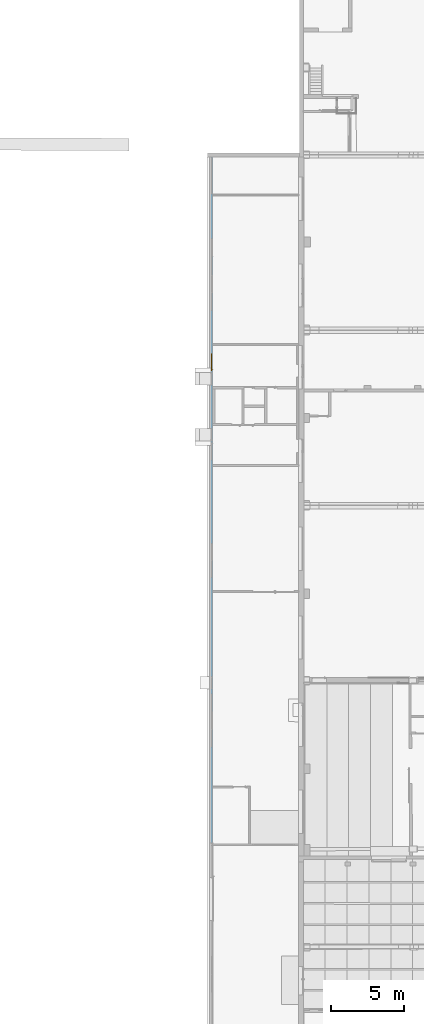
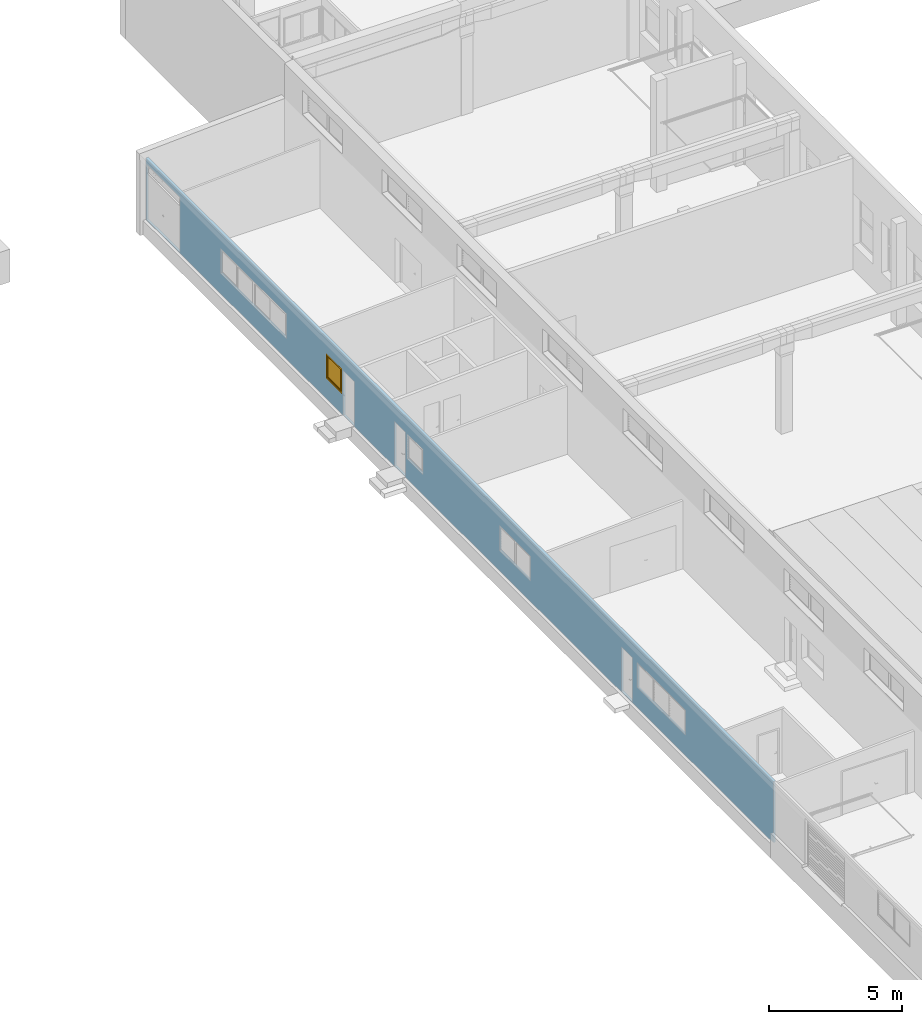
# One storey, part 102 of 301: 1 window, 9 openings, plus 1 element that does not belong to this part.
"""IFC2X3 building model written with IfcOpenShell, lengths in millimetres."""

from ifc_helpers import new_model, entity, si_unit, converted_unit, derived_unit, money_unit, direction, frame, origin_with_axes, place, context, subcontext, project, spatial, open_shell, faceted_brep, surface_model, material, type_object, element, fill, save


model = new_model("IFC2X3")

# Units and contexts
model_context = context("Model", 3, precision=0.01, world=origin_with_axes(), true_north=direction((0.0, 1.0)))
body_context = subcontext(model_context, "Body", "Model", "MODEL_VIEW")
ifc_project = project(units=[si_unit("LENGTHUNIT", "METRE", prefix="MILLI"), si_unit("AREAUNIT", "SQUARE_METRE"), si_unit("VOLUMEUNIT", "CUBIC_METRE"), converted_unit("PLANEANGLEUNIT", "DEGREE", entity("IfcPlaneAngleMeasure", 0.0174532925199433), si_unit("PLANEANGLEUNIT", "RADIAN"), dimensions=[0, 0, 0, 0, 0, 0, 0]), money_unit("EUR"), converted_unit("TIMEUNIT", "Year", entity("IfcTimeMeasure", 31557600.0), si_unit("TIMEUNIT", "SECOND"), dimensions=[0, 0, 1, 0, 0, 0, 0]), si_unit("MASSUNIT", "GRAM", prefix="KILO"), si_unit("THERMODYNAMICTEMPERATUREUNIT", "DEGREE_CELSIUS"), si_unit("LUMINOUSINTENSITYUNIT", "LUMEN"), si_unit("ENERGYUNIT", "JOULE", prefix="MEGA"), derived_unit("THERMALCONDUCTANCEUNIT", [(si_unit("POWERUNIT", "WATT"), 1), (si_unit("LENGTHUNIT", "METRE"), -1), (si_unit("THERMODYNAMICTEMPERATUREUNIT", "KELVIN"), -1)]), derived_unit("SPECIFICHEATCAPACITYUNIT", [(si_unit("ENERGYUNIT", "JOULE"), 1), (si_unit("MASSUNIT", "GRAM", prefix="KILO"), -1), (si_unit("THERMODYNAMICTEMPERATUREUNIT", "KELVIN"), -1)]), derived_unit("MASSDENSITYUNIT", [(si_unit("MASSUNIT", "GRAM", prefix="KILO"), 1), (si_unit("VOLUMEUNIT", "CUBIC_METRE"), -1)])], contexts=[model_context])

# Site, building, storey
site_placement = place(None, frame((0.0, 0.0, 8650.0), z_axis=(0.0, 0.0, 1.0), x_axis=(1.0, 0.0, 0.0)))
site = spatial("IfcSite", under=ifc_project, at=site_placement, Name="43301:001:0844", CompositionType="ELEMENT")
building_placement = place(site_placement, origin_with_axes())
building = spatial("IfcBuilding", under=site, at=building_placement, Name="Kuressaare Ametikooli tuulikute mehaanikute õppekorpus", CompositionType="ELEMENT")
storey_placement = place(building_placement, origin_with_axes())
storey = spatial("IfcBuildingStorey", under=building, at=storey_placement, Name="1.korrus", CompositionType="ELEMENT", Elevation=0.0)

# Wall, openings, window
ifc_material = material(Name="GENEERILINE - KONSTRUKTRIOON")
wall_type = type_object("IfcWallType", Name="GENEERILINE - KONSTRUKTRIOON 100", PredefinedType="NOTDEFINED")
wall_placement = place(storey_placement, frame((81892.20130850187, 110588.890590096, -350.0), z_axis=(0.0, 0.0, 1.0), x_axis=(-7.655742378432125e-06, -0.9999999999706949, 0.0)))
wall = element("IfcWall", 1, at=wall_placement, inside=storey, type_object=wall_type, material=ifc_material, Name="VS-XX", context=body_context, shape_type="Brep", body=[
    faceted_brep([(269.999999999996, 0.0, 2816.26484691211), (269.999999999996, 99.99999999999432, 2821.680593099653), (269.999999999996, 99.99999999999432, 0.0), (269.999999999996, 0.0, 0.0), (47352.6273163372, 99.9999999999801, 2809.655716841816), (47352.6273163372, 0.0, 2804.239970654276), (47352.6273163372, 99.9999999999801, 0.0), (5854.778075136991, 99.9999999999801, 924.9999999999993), (10814.77807513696, 100.0000000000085, 924.9999999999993), (10814.77807513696, 100.0000000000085, 2075.0), (5854.778075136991, 99.9999999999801, 2075.0), (13763.52836301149, 99.99999999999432, 2075.0), (13763.52836301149, 99.99999999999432, 924.9999999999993), (14963.52836301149, 100.0000000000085, 924.9999999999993), (14963.52836301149, 100.0000000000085, 2075.0), (21051.12921387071, 99.99999999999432, 2075.0), (19851.12921387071, 99.99999999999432, 2075.0), (19851.12921387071, 99.99999999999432, 924.9999999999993), (21051.12921387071, 99.99999999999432, 924.9999999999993), (29133.95455333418, 99.99999999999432, 924.9999999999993), (29133.95455333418, 99.99999999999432, 2075.0), (26783.95455333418, 99.99999999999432, 2075.0), (26783.95455333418, 99.99999999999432, 924.9999999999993), (37120.04927739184, 99.9999999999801, 924.9999999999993), (40770.04927739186, 99.9999999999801, 924.9999999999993), (40770.04927739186, 99.9999999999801, 2075.0), (37120.04927739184, 99.9999999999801, 2075.0), (297.2449189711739, 99.99999999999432, 2580.0), (297.2449189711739, 99.99999999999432, 19.99999999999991), (2817.24491897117, 99.99999999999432, 19.99999999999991), (2817.24491897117, 99.99999999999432, 2580.0), (15909.77920143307, 100.0000000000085, 2070.0), (15059.77920143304, 99.99999999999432, 2070.0), (15059.77920143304, 99.99999999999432, 19.99999999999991), (15909.77920143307, 100.0000000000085, 19.99999999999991), (19754.87837544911, 99.9999999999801, 19.99999999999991), (19754.87837544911, 99.9999999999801, 2070.0), (18904.8783754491, 99.99999999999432, 2070.0), (18904.8783754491, 99.99999999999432, 19.99999999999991), (35946.63936298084, 99.9999999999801, 19.99999999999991), (36796.63936298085, 99.9999999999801, 19.99999999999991), (36796.63936298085, 99.9999999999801, 2070.0), (35946.63936298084, 99.9999999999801, 2070.0), (47352.6273163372, 0.0, 0.0), (10814.77807513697, 0.0, 2075.0), (10814.77807513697, 0.0, 924.9999999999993), (5854.778075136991, 0.0, 924.9999999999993), (5854.778075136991, 0.0, 2075.0), (13763.5283630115, 0.0, 2075.0), (14963.5283630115, 0.0, 2075.0), (14963.5283630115, 0.0, 924.9999999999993), (13763.5283630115, 0.0, 924.9999999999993), (19851.12921387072, 0.0, 924.9999999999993), (19851.12921387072, 0.0, 2075.0), (21051.12921387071, 0.0, 2075.0), (21051.12921387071, 0.0, 924.9999999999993), (29133.95455333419, 0.0, 924.9999999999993), (26783.95455333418, 0.0, 924.9999999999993), (26783.95455333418, 0.0, 2075.0), (29133.95455333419, 0.0, 2075.0), (40770.04927739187, 0.0, 2075.0), (40770.04927739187, 0.0, 924.9999999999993), (37120.04927739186, 0.0, 924.9999999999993), (37120.04927739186, 0.0, 2075.0), (297.2449189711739, 0.0, 2580.0), (2817.244918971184, 0.0, 2580.0), (2817.244918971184, 0.0, 19.99999999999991), (297.2449189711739, 0.0, 19.99999999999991), (15059.77920143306, 0.0, 19.99999999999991), (15059.77920143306, 0.0, 2070.0), (15909.77920143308, 0.0, 2070.0), (15909.77920143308, 0.0, 19.99999999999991), (19754.87837544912, 0.0, 19.99999999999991), (18904.8783754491, 0.0, 19.99999999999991), (18904.8783754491, 0.0, 2070.0), (19754.87837544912, 0.0, 2070.0), (36796.63936298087, 0.0, 2070.0), (36796.63936298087, 0.0, 19.99999999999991), (35946.63936298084, 0.0, 19.99999999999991), (35946.63936298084, 0.0, 2070.0)], [[[0, 1, 2, 3]], [[4, 1, 0, 5]], [[1, 4, 6, 2], [7, 8, 9, 10], [11, 12, 13, 14], [15, 16, 17, 18], [19, 20, 21, 22], [23, 24, 25, 26], [27, 28, 29, 30], [31, 32, 33, 34], [35, 36, 37, 38], [39, 40, 41, 42]], [[2, 6, 43, 3]], [[5, 0, 3, 43], [44, 45, 46, 47], [48, 49, 50, 51], [52, 53, 54, 55], [56, 57, 58, 59], [60, 61, 62, 63], [64, 65, 66, 67], [68, 69, 70, 71], [72, 73, 74, 75], [76, 77, 78, 79]], [[4, 5, 43, 6]], [[45, 8, 7, 46]], [[44, 9, 8, 45]], [[47, 10, 9, 44]], [[46, 7, 10, 47]], [[48, 51, 12, 11]], [[51, 50, 13, 12]], [[50, 49, 14, 13]], [[49, 48, 11, 14]], [[15, 54, 53, 16]], [[16, 53, 52, 17]], [[17, 52, 55, 18]], [[18, 55, 54, 15]], [[20, 19, 56, 59]], [[21, 20, 59, 58]], [[22, 21, 58, 57]], [[19, 22, 57, 56]], [[61, 24, 23, 62]], [[60, 25, 24, 61]], [[63, 26, 25, 60]], [[62, 23, 26, 63]], [[64, 67, 28, 27]], [[67, 66, 29, 28]], [[66, 65, 30, 29]], [[65, 64, 27, 30]], [[31, 70, 69, 32]], [[32, 69, 68, 33]], [[33, 68, 71, 34]], [[34, 71, 70, 31]], [[36, 35, 72, 75]], [[37, 36, 75, 74]], [[38, 37, 74, 73]], [[35, 38, 73, 72]], [[77, 40, 39, 78]], [[76, 41, 40, 77]], [[79, 42, 41, 76]], [[78, 39, 42, 79]]]),
])
opening_1_placement = place(wall_placement, frame((8334.778075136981, 0.0, 924.9999999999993), z_axis=(0.0, 0.0, 1.0), x_axis=(1.0, 0.0, 0.0)))
element("IfcOpeningElement", 2, at=opening_1_placement, cuts=wall, Name="VA-XX", context=body_context, shape_type="Brep", body=[
    faceted_brep([(2479.999999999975, 101.3625195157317, 1150.0), (2479.999999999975, 101.3625195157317, 0.0), (-2480.000000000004, 101.3625195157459, 0.0), (-2480.000000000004, 101.3625195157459, 1150.0), (2479.999999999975, -1.362519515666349, 1150.0), (2479.999999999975, -1.362519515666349, 0.0), (-2479.99999999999, -1.36251951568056, 0.0), (-2479.99999999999, -1.36251951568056, 1150.0)], [[[0, 1, 2, 3]], [[4, 5, 1, 0]], [[5, 6, 2, 1]], [[6, 7, 3, 2]], [[7, 4, 0, 3]], [[6, 5, 4, 7]]]),
])
opening_2_placement = place(wall_placement, frame((14363.52836301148, 0.0, 924.9999999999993), z_axis=(0.0, 0.0, 1.0), x_axis=(1.0, 0.0, 0.0)))
opening_2 = element("IfcOpeningElement", 3, at=opening_2_placement, cuts=wall, Name="VA-XX", context=body_context, shape_type="Brep", body=[
    faceted_brep([(600.0000000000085, 101.362519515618, 1150.0), (600.0000000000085, 101.362519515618, 0.0), (-599.9999999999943, 101.362519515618, 0.0), (-599.9999999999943, 101.362519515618, 1150.0), (600.0000000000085, -1.362519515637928, 1150.0), (600.0000000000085, -1.362519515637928, 0.0), (-599.9999999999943, -1.362519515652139, 0.0), (-599.9999999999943, -1.362519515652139, 1150.0)], [[[0, 1, 2, 3]], [[4, 5, 1, 0]], [[5, 6, 2, 1]], [[6, 7, 3, 2]], [[7, 4, 0, 3]], [[6, 5, 4, 7]]]),
])
opening_3_placement = place(wall_placement, frame((20451.1292138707, 0.0, 924.9999999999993), z_axis=(0.0, 0.0, 1.0), x_axis=(1.0, 0.0, 0.0)))
element("IfcOpeningElement", 4, at=opening_3_placement, cuts=wall, Name="VA-XX", context=body_context, shape_type="Brep", body=[
    faceted_brep([(599.9999999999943, 101.3625195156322, 1150.0), (599.9999999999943, 101.3625195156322, 0.0), (-599.9999999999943, 101.3625195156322, 0.0), (-599.9999999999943, 101.3625195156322, 1150.0), (600.0000000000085, -1.362519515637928, 1150.0), (600.0000000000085, -1.362519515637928, 0.0), (-599.9999999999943, -1.362519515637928, 0.0), (-599.9999999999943, -1.362519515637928, 1150.0)], [[[0, 1, 2, 3]], [[4, 5, 1, 0]], [[5, 6, 2, 1]], [[6, 7, 3, 2]], [[7, 4, 0, 3]], [[6, 5, 4, 7]]]),
])
opening_4_placement = place(wall_placement, frame((27958.95455333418, 0.0, 924.9999999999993), z_axis=(0.0, 0.0, 1.0), x_axis=(1.0, 0.0, 0.0)))
element("IfcOpeningElement", 5, at=opening_4_placement, cuts=wall, Name="VA-XX", context=body_context, shape_type="Brep", body=[
    faceted_brep([(1174.999999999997, 101.3625195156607, 1150.0), (1174.999999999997, 101.3625195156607, 0.0), (-1175.000000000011, 101.3625195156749, 0.0), (-1175.000000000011, 101.3625195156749, 1150.0), (1174.999999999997, -1.362519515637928, 1150.0), (1174.999999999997, -1.362519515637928, 0.0), (-1174.999999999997, -1.362519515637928, 0.0), (-1174.999999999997, -1.362519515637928, 1150.0)], [[[0, 1, 2, 3]], [[4, 5, 1, 0]], [[5, 6, 2, 1]], [[6, 7, 3, 2]], [[7, 4, 0, 3]], [[6, 5, 4, 7]]]),
])
opening_5_placement = place(wall_placement, frame((38945.04927739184, 0.0, 924.9999999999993), z_axis=(0.0, 0.0, 1.0), x_axis=(1.0, 0.0, 0.0)))
element("IfcOpeningElement", 6, at=opening_5_placement, cuts=wall, Name="VA-XX", context=body_context, shape_type="Brep", body=[
    faceted_brep([(1825.000000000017, 101.3625195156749, 1150.0), (1825.000000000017, 101.3625195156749, 0.0), (-1825.000000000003, 101.3625195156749, 0.0), (-1825.000000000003, 101.3625195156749, 1150.0), (1825.000000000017, -1.362519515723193, 1150.0), (1825.000000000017, -1.362519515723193, 0.0), (-1825.000000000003, -1.362519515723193, 0.0), (-1825.000000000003, -1.362519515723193, 1150.0)], [[[0, 1, 2, 3]], [[4, 5, 1, 0]], [[5, 6, 2, 1]], [[6, 7, 3, 2]], [[7, 4, 0, 3]], [[6, 5, 4, 7]]]),
])
opening_6_placement = place(wall_placement, frame((1557.244918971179, 0.0, 19.99999999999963), z_axis=(0.0, 0.0, 1.0), x_axis=(1.0, 0.0, 0.0)))
element("IfcOpeningElement", 7, at=opening_6_placement, cuts=wall, context=body_context, shape_type="Brep", body=[
    faceted_brep([(1259.999999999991, 101.3625195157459, 2560.0), (1259.999999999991, 101.3625195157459, 0.0), (-1260.000000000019, 101.3625195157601, 0.0), (-1260.000000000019, 101.3625195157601, 2560.0), (1259.999999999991, -1.36251951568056, 2560.0), (1259.999999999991, -1.36251951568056, 0.0), (-1260.000000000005, -1.36251951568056, 0.0), (-1260.000000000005, -1.36251951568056, 2560.0)], [[[0, 1, 2, 3]], [[4, 5, 1, 0]], [[5, 6, 2, 1]], [[6, 7, 3, 2]], [[7, 4, 0, 3]], [[6, 5, 4, 7]]]),
])
opening_7_placement = place(wall_placement, frame((15484.77920143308, 0.0, 19.99999999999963), z_axis=(0.0, 0.0, 1.0), x_axis=(1.0, 0.0, 0.0)))
element("IfcOpeningElement", 8, at=opening_7_placement, cuts=wall, context=body_context, shape_type="Brep", body=[
    faceted_brep([(424.9999999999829, 101.3625195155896, 2050.0), (424.9999999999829, 101.3625195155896, 0.0), (-425.0000000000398, 101.3625195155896, 0.0), (-425.0000000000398, 101.3625195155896, 2050.0), (424.9999999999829, -1.362519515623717, 2050.0), (424.9999999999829, -1.362519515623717, 0.0), (-425.0000000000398, -1.362519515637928, 0.0), (-425.0000000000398, -1.362519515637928, 2050.0)], [[[0, 1, 2, 3]], [[4, 5, 1, 0]], [[5, 6, 2, 1]], [[6, 7, 3, 2]], [[7, 4, 0, 3]], [[6, 5, 4, 7]]]),
])
opening_8_placement = place(wall_placement, frame((19329.8783754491, 0.0, 19.99999999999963), z_axis=(0.0, 0.0, 1.0), x_axis=(1.0, 0.0, 0.0)))
element("IfcOpeningElement", 9, at=opening_8_placement, cuts=wall, context=body_context, shape_type="Brep", body=[
    faceted_brep([(425.0000000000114, 101.3625195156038, 2050.0), (425.0000000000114, 101.3625195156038, 0.0), (-425.0000000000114, 101.3625195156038, 0.0), (-425.0000000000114, 101.3625195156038, 2050.0), (425.0000000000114, -1.362519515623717, 2050.0), (425.0000000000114, -1.362519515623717, 0.0), (-424.9999999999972, -1.362519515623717, 0.0), (-424.9999999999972, -1.362519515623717, 2050.0)], [[[0, 1, 2, 3]], [[4, 5, 1, 0]], [[5, 6, 2, 1]], [[6, 7, 3, 2]], [[7, 4, 0, 3]], [[6, 5, 4, 7]]]),
])
opening_9_placement = place(wall_placement, frame((36371.63936298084, 0.0, 19.99999999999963), z_axis=(0.0, 0.0, 1.0), x_axis=(1.0, 0.0, 0.0)))
element("IfcOpeningElement", 10, at=opening_9_placement, cuts=wall, context=body_context, shape_type="Brep", body=[
    faceted_brep([(425.0000000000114, 101.362519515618, 2050.0), (425.0000000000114, 101.362519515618, 0.0), (-425.0000000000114, 101.362519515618, 0.0), (-425.0000000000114, 101.362519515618, 2050.0), (425.0000000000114, -1.362519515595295, 2050.0), (425.0000000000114, -1.362519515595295, 0.0), (-424.9999999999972, -1.362519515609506, 0.0), (-424.9999999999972, -1.362519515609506, 2050.0)], [[[0, 1, 2, 3]], [[4, 5, 1, 0]], [[5, 6, 2, 1]], [[6, 7, 3, 2]], [[7, 4, 0, 3]], [[6, 5, 4, 7]]]),
])
window_style = type_object("IfcWindowStyle", Name="Window 27", ConstructionType="NOTDEFINED", OperationType="SINGLE_PANEL", ParameterTakesPrecedence=False, Sizeable=False)
window_placement = place(opening_2_placement, frame((-599.9999999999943, 0.0, 0.0), z_axis=(0.0, 0.0, 1.0), x_axis=(1.0, 0.0, 0.0)))
window = element("IfcWindow", 11, at=window_placement, inside=storey, type_object=window_style, Name="VA-XX", OverallHeight=1150.0, OverallWidth=1200.0, context=body_context, shape_type="SurfaceModel", body=[
    faceted_brep([(1140.0, 49.99999999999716, 1080.0), (1140.0, 14.99999999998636, 1080.0), (1130.00000000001, 15.00000000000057, 1080.0), (1129.999999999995, 0.0, 1080.0), (1200.000000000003, 0.0, 1080.0), (1200.000000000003, 49.99999999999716, 1080.0), (1140.0, 49.99999999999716, 70.00000000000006), (1140.0, 14.99999999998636, 70.00000000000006), (1130.00000000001, 15.00000000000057, 70.00000000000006), (1129.999999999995, 0.0, 70.00000000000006), (1200.000000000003, 0.0, 70.00000000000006), (1200.000000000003, 49.99999999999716, 70.00000000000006)], [[[0, 1, 2, 3, 4, 5]], [[1, 0, 6, 7]], [[8, 2, 1, 7]], [[2, 8, 9, 3]], [[4, 3, 9, 10]], [[5, 4, 10, 11]], [[6, 0, 5, 11]], [[7, 6, 11, 10, 9, 8]]]),
    faceted_brep([(70.00000000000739, 15.00000000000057, 1080.0), (60.00000000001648, 14.99999999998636, 1080.0), (60.00000000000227, 50.00000000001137, 1080.0), (0.0, 49.99999999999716, 1080.0), (0.0, 0.0, 1080.0), (69.99999999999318, 0.0, 1080.0), (70.00000000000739, 15.00000000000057, 70.00000000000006), (60.00000000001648, 14.99999999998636, 70.00000000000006), (60.00000000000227, 50.00000000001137, 70.00000000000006), (0.0, 49.99999999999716, 70.00000000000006), (0.0, 0.0, 70.00000000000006), (69.99999999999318, 0.0, 70.00000000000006)], [[[0, 1, 2, 3, 4, 5]], [[1, 0, 6, 7]], [[8, 2, 1, 7]], [[2, 8, 9, 3]], [[9, 10, 4, 3]], [[10, 11, 5, 4]], [[6, 0, 5, 11]], [[7, 6, 11, 10, 9, 8]]]),
    faceted_brep([(70.00000000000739, 15.00000000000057, 70.00000000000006), (60.00000000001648, 14.99999999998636, 70.00000000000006), (60.00000000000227, 50.00000000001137, 70.00000000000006), (0.0, 49.99999999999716, 70.00000000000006), (0.0, 0.0, 70.00000000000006), (69.99999999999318, 0.0, 70.00000000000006), (1130.00000000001, 15.00000000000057, 70.00000000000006), (1140.0, 14.99999999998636, 70.00000000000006), (1140.0, 14.99999999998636, 60.00000000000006), (60.00000000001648, 14.99999999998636, 60.00000000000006), (60.00000000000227, 50.00000000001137, 60.00000000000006), (1140.0, 49.99999999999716, 60.00000000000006), (1140.0, 49.99999999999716, 70.00000000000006), (1200.000000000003, 49.99999999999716, 70.00000000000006), (1200.000000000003, 49.99999999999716, 0.0), (0.0, 49.99999999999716, 0.0), (0.0, 0.0, 0.0), (1200.000000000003, 0.0, 70.00000000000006), (1129.999999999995, 0.0, 70.00000000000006), (1200.000000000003, 0.0, 0.0)], [[[0, 1, 2, 3, 4, 5]], [[1, 0, 6, 7, 8, 9]], [[10, 2, 1, 9]], [[11, 12, 13, 14, 15, 3, 2, 10]], [[15, 16, 4, 3]], [[17, 18, 5, 4, 16, 19]], [[6, 0, 5, 18]], [[7, 6, 18, 17, 13, 12]], [[7, 12, 11, 8]], [[11, 10, 9, 8]], [[13, 17, 19, 14]], [[14, 19, 16, 15]]]),
    faceted_brep([(1140.0, 49.99999999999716, 1080.0), (1140.0, 49.99999999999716, 1090.0), (60.00000000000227, 50.00000000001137, 1090.0), (60.00000000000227, 50.00000000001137, 1080.0), (0.0, 49.99999999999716, 1080.0), (0.0, 49.99999999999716, 1150.0), (1200.000000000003, 49.99999999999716, 1150.0), (1200.000000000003, 49.99999999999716, 1080.0), (1140.0, 14.99999999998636, 1080.0), (1140.0, 14.99999999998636, 1090.0), (60.00000000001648, 14.99999999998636, 1090.0), (60.00000000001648, 14.99999999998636, 1080.0), (70.00000000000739, 15.00000000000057, 1080.0), (69.99999999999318, 0.0, 1080.0), (0.0, 0.0, 1080.0), (0.0, 0.0, 1150.0), (1200.000000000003, 0.0, 1150.0), (1200.000000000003, 0.0, 1080.0), (1129.999999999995, 0.0, 1080.0), (1130.00000000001, 15.00000000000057, 1080.0)], [[[0, 1, 2, 3, 4, 5, 6, 7]], [[1, 0, 8, 9]], [[2, 1, 9, 10]], [[3, 2, 10, 11]], [[11, 12, 13, 14, 4, 3]], [[4, 14, 15, 5]], [[5, 15, 16, 6]], [[6, 16, 17, 7]], [[8, 0, 7, 17, 18, 19]], [[12, 11, 10, 9, 8, 19]], [[12, 19, 18, 13]], [[14, 13, 18, 17, 16, 15]]]),
    faceted_brep([(1131.0, 64.99999999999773, 602.0), (1131.0, 76.99999999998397, 602.0), (1129.660254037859, 76.99999999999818, 606.9999999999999), (1129.660254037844, 64.99999999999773, 606.9999999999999), (1131.0, 64.99999999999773, 547.9999999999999), (1131.0, 76.99999999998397, 547.9999999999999), (1129.660254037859, 76.99999999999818, 542.9999999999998), (1126.000000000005, 76.99999999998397, 539.3397459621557), (1121.000000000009, 76.99999999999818, 537.9999999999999), (1108.999999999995, 76.99999999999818, 537.9999999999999), (1104.000000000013, 76.99999999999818, 539.3397459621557), (1100.33974596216, 76.99999999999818, 542.9999999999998), (1099.000000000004, 76.99999999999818, 547.9999999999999), (1099.000000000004, 76.99999999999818, 602.0), (1100.33974596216, 76.99999999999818, 606.9999999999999), (1104.000000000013, 76.99999999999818, 610.6602540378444), (1108.999999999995, 76.99999999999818, 612.0), (1121.000000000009, 76.99999999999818, 612.0), (1126.000000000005, 76.99999999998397, 610.6602540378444), (1125.99999999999, 64.99999999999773, 610.6602540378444), (1121.000000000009, 64.99999999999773, 612.0), (1108.999999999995, 64.99999999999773, 612.0), (1104.000000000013, 65.00000000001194, 610.6602540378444), (1100.339745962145, 64.99999999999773, 606.9999999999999), (1099.000000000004, 65.00000000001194, 602.0), (1099.000000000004, 65.00000000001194, 547.9999999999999), (1100.339745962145, 64.99999999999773, 542.9999999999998), (1104.000000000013, 65.00000000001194, 539.3397459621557), (1108.999999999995, 64.99999999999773, 537.9999999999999), (1121.000000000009, 64.99999999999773, 537.9999999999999), (1125.99999999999, 64.99999999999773, 539.3397459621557), (1129.660254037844, 64.99999999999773, 542.9999999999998)], [[[0, 1, 2, 3]], [[4, 5, 1, 0]], [[1, 5, 6, 7, 8, 9, 10, 11, 12, 13, 14, 15, 16, 17, 18, 2]], [[3, 2, 18, 19]], [[0, 3, 19, 20, 21, 22, 23, 24, 25, 26, 27, 28, 29, 30, 31, 4]], [[31, 6, 5, 4]], [[30, 7, 6, 31]], [[29, 8, 7, 30]], [[28, 9, 8, 29]], [[27, 10, 9, 28]], [[26, 11, 10, 27]], [[25, 12, 11, 26]], [[24, 13, 12, 25]], [[23, 14, 13, 24]], [[22, 15, 14, 23]], [[21, 16, 15, 22]], [[20, 17, 16, 21]], [[19, 18, 17, 20]]]),
    faceted_brep([(1115.000000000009, 76.99999999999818, 588.4999999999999), (1115.000000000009, 101.0000000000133, 588.4999999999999), (1108.250000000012, 100.9999999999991, 586.69134295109), (1108.249999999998, 76.99999999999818, 586.69134295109), (1121.750000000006, 76.99999999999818, 586.69134295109), (1121.750000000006, 100.9999999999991, 586.69134295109), (1126.691342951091, 100.9999999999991, 581.7500000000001), (1128.500000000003, 100.9999999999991, 574.9999999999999), (1126.691342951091, 100.9999999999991, 568.25), (1121.750000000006, 100.9999999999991, 563.3086570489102), (1115.000000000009, 101.0000000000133, 561.5), (1108.250000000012, 100.9999999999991, 563.3086570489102), (1103.308657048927, 100.9999999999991, 568.25), (1101.500000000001, 101.0000000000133, 574.9999999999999), (1103.308657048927, 100.9999999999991, 581.7500000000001), (1103.308657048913, 76.99999999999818, 581.7500000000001), (1101.500000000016, 76.99999999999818, 574.9999999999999), (1103.308657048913, 76.99999999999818, 568.25), (1108.249999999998, 76.99999999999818, 563.3086570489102), (1115.000000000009, 76.99999999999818, 561.5), (1121.750000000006, 76.99999999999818, 563.3086570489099), (1126.691342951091, 76.99999999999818, 568.25), (1128.500000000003, 76.99999999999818, 574.9999999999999), (1126.691342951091, 76.99999999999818, 581.7500000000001)], [[[0, 1, 2, 3]], [[4, 5, 1, 0]], [[1, 5, 6, 7, 8, 9, 10, 11, 12, 13, 14, 2]], [[3, 2, 14, 15]], [[0, 3, 15, 16, 17, 18, 19, 20, 21, 22, 23, 4]], [[23, 6, 5, 4]], [[22, 7, 6, 23]], [[21, 8, 7, 22]], [[20, 9, 8, 21]], [[19, 10, 9, 20]], [[18, 11, 10, 19]], [[17, 12, 11, 18]], [[16, 13, 12, 17]], [[15, 14, 13, 16]]]),
    faceted_brep([(1126.499999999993, 100.9999999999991, 468.0000000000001), (1128.500000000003, 100.9999999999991, 471.0), (1128.500000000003, 100.9999999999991, 574.9999999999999), (1126.691342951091, 100.9999999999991, 581.7500000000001), (1121.750000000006, 100.9999999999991, 586.69134295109), (1115.000000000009, 101.0000000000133, 588.4999999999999), (1108.250000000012, 100.9999999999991, 586.69134295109), (1103.308657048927, 100.9999999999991, 581.7500000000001), (1101.500000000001, 101.0000000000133, 574.9999999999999), (1101.500000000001, 101.0000000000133, 471.0), (1103.500000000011, 100.9999999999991, 468.0000000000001), (1115.000000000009, 101.0000000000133, 464.9999999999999), (1126.500000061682, 108.9999999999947, 468.0000001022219), (1128.500000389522, 108.9999999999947, 470.9999996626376), (1128.500000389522, 108.9999999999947, 574.9999999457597), (1126.691343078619, 108.9999999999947, 581.749999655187), (1121.749999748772, 108.9999999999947, 586.6913429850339), (1115.000000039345, 108.9999999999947, 588.500000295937), (1108.250000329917, 108.9999999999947, 586.6913429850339), (1103.308657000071, 108.9999999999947, 581.749999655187), (1101.499999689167, 108.9999999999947, 574.9999999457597), (1101.499999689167, 108.9999999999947, 470.9999996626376), (1103.500000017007, 108.9999999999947, 468.0000001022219), (1115.000000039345, 108.9999999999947, 464.9999996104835), (1124.637462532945, 111.9999995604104, 470.6145196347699), (1125.500000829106, 111.9999995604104, 471.9083266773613), (1125.500000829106, 111.9999995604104, 574.6050424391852), (1124.001617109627, 111.9999995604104, 580.1970855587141), (1120.197085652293, 111.9999995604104, 584.001617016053), (1115.000000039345, 111.9999995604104, 585.3941721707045), (1109.802914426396, 111.9999995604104, 584.001617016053), (1105.998382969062, 111.9999995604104, 580.1970855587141), (1104.499999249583, 111.9999995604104, 574.6050424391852), (1104.499999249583, 111.9999995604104, 471.9083266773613), (1105.362537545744, 111.9999995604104, 470.6145196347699), (1115.000000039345, 111.9999995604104, 468.1003985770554)], [[[0, 1, 2, 3, 4, 5, 6, 7, 8, 9, 10, 11]], [[0, 12, 13, 1]], [[1, 13, 14, 2]], [[2, 14, 15, 3]], [[3, 15, 16, 4]], [[4, 16, 17, 5]], [[5, 17, 18, 6]], [[6, 18, 19, 7]], [[7, 19, 20, 8]], [[8, 20, 21, 9]], [[9, 21, 22, 10]], [[10, 22, 23, 11]], [[11, 23, 12, 0]], [[12, 24, 25, 13]], [[13, 25, 26, 14]], [[14, 26, 27, 15]], [[15, 27, 28, 16]], [[16, 28, 29, 17]], [[17, 29, 30, 18]], [[18, 30, 31, 19]], [[19, 31, 32, 20]], [[20, 32, 33, 21]], [[21, 33, 34, 22]], [[22, 34, 35, 23]], [[23, 35, 24, 12]], [[34, 33, 32, 31, 30, 29, 28, 27, 26, 25, 24, 35]]]),
    faceted_brep([(1090.000000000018, 15.00000000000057, 1040.0), (1140.0, 14.99999999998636, 1040.0), (1140.0, 64.99999999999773, 1040.0), (1090.000000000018, 64.99999999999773, 1040.0), (1090.000000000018, 15.00000000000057, 110.0), (1140.0, 14.99999999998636, 110.0), (1140.0, 64.99999999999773, 110.0), (1090.000000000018, 64.99999999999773, 110.0)], [[[0, 1, 2, 3]], [[0, 4, 5, 1]], [[1, 5, 6, 2]], [[3, 2, 6, 7]], [[4, 0, 3, 7]], [[5, 4, 7, 6]]]),
    faceted_brep([(109.9999999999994, 15.00000000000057, 110.0), (60.00000000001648, 14.99999999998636, 110.0), (60.00000000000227, 65.00000000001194, 110.0), (109.9999999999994, 64.99999999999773, 110.0), (109.9999999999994, 15.00000000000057, 1040.0), (60.00000000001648, 14.99999999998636, 1040.0), (60.00000000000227, 65.00000000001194, 1040.0), (109.9999999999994, 64.99999999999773, 1040.0)], [[[0, 1, 2, 3]], [[0, 4, 5, 1]], [[1, 5, 6, 2]], [[3, 2, 6, 7]], [[4, 0, 3, 7]], [[5, 4, 7, 6]]]),
    faceted_brep([(60.00000000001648, 14.99999999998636, 60.00000000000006), (60.00000000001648, 14.99999999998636, 110.0), (60.00000000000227, 65.00000000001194, 110.0), (60.00000000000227, 65.00000000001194, 60.00000000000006), (1140.0, 14.99999999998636, 60.00000000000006), (1140.0, 14.99999999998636, 110.0), (1090.000000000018, 15.00000000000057, 110.0), (109.9999999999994, 15.00000000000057, 110.0), (109.9999999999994, 64.99999999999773, 110.0), (1090.000000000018, 64.99999999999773, 110.0), (1140.0, 64.99999999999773, 110.0), (1140.0, 64.99999999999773, 60.00000000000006)], [[[0, 1, 2, 3]], [[0, 4, 5, 6, 7, 1]], [[1, 7, 8, 2]], [[3, 2, 8, 9, 10, 11]], [[4, 0, 3, 11]], [[5, 4, 11, 10]], [[6, 5, 10, 9]], [[7, 6, 9, 8]]]),
    faceted_brep([(1140.0, 14.99999999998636, 1090.0), (1140.0, 14.99999999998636, 1040.0), (1140.0, 64.99999999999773, 1040.0), (1140.0, 64.99999999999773, 1090.0), (60.00000000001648, 14.99999999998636, 1090.0), (60.00000000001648, 14.99999999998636, 1040.0), (109.9999999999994, 15.00000000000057, 1040.0), (1090.000000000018, 15.00000000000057, 1040.0), (1090.000000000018, 64.99999999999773, 1040.0), (109.9999999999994, 64.99999999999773, 1040.0), (60.00000000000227, 65.00000000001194, 1040.0), (60.00000000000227, 65.00000000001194, 1090.0)], [[[0, 1, 2, 3]], [[0, 4, 5, 6, 7, 1]], [[1, 7, 8, 2]], [[3, 2, 8, 9, 10, 11]], [[4, 0, 3, 11]], [[5, 4, 11, 10]], [[6, 5, 10, 9]], [[7, 6, 9, 8]]]),
    surface_model("IfcShellBasedSurfaceModel", [(1090.000000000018, 29.99999999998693, 110.0), (1090.000000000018, 29.99999999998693, 1040.0), (109.9999999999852, 30.00000000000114, 1040.0), (109.9999999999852, 30.00000000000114, 110.0)], [open_shell([[[0, 1, 2, 3]]])]),
    surface_model("IfcShellBasedSurfaceModel", [(1090.000000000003, 49.99999999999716, 110.0), (109.9999999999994, 50.00000000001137, 110.0), (109.9999999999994, 50.00000000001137, 1040.0), (1090.000000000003, 49.99999999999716, 1040.0)], [open_shell([[[0, 1, 2, 3]]])]),
])
fill(opening_2, window)

save(model, "model.ifc")
